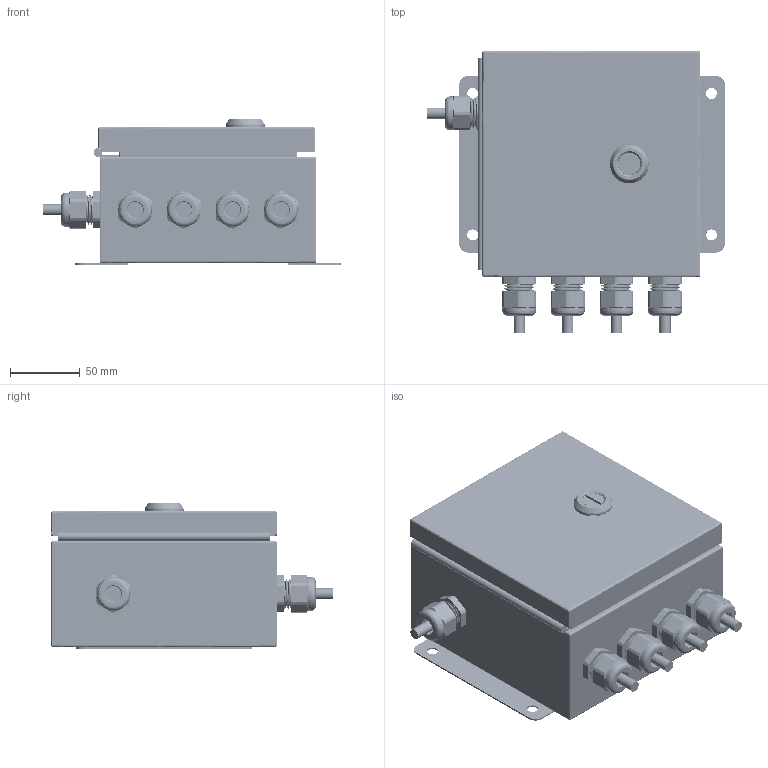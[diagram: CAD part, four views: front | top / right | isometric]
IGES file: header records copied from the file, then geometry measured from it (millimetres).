
Start section: SolidWorks IGES file using analytic representation for surfaces
Global section: file name: C:\0_Work\SolidWorks\HI 6020 Series\HI6020JB-SS1.IGS; native system: SolidWorks 2020; preprocessor: SolidWorks 2020; author: vach01; date: 230928.130654; units: inch
Bounding box: 213.8 x 203.09 x 104.41 mm (x, y, z)
Surface area: 458391.4 mm2 (no closed solid volume)
Topology: 0 solids, 0 shells, 15820 faces, 144245 edges, 144127 vertices
Faces by surface type: bspline 12661, revolution 3159
